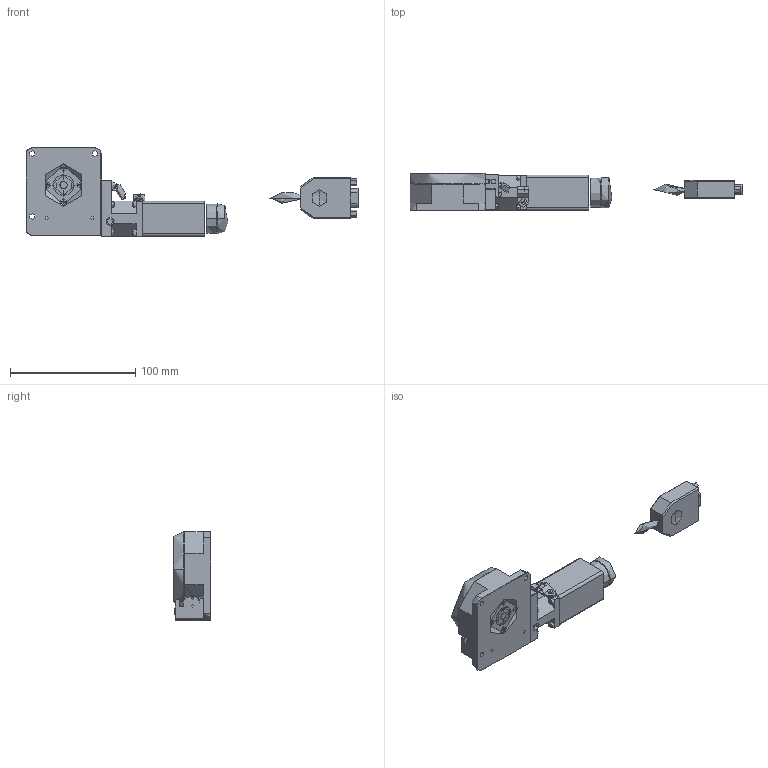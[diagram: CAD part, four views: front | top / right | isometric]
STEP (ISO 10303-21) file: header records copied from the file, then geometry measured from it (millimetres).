
FILE_DESCRIPTION (( 'STEP AP214' ), '1' );
FILE_NAME ('PX-GD60Z.STEP', '2022-10-23T07:54:29', ( '' ), ( '' ), 'SwSTEP 2.0', 'SolidWorks 2017', '' );
FILE_SCHEMA (( 'AUTOMOTIVE_DESIGN' ));
Length unit declared in the file: millimetre
Products named in the file (2): PX-GD60Z
Assembly tree (1 placements, depth 2):
  PX-GD60Z
    PX-GD60Z
Bounding box: 265.4 x 30 x 71.1 mm (x, y, z)
Topology: 0 solids, 98 shells, 783 faces, 2253 edges, 1561 vertices
Faces by surface type: plane 439, cylinder 153, bspline 107, cone 84
Full cylindrical faces by diameter (mm): 6 x2
Entity records: 37545 total; most frequent: CARTESIAN_POINT 18625, ORIENTED_EDGE 3993, DIRECTION 3160, EDGE_CURVE 2219, VERTEX_POINT 1558, LINE 1200, VECTOR 1200, AXIS2_PLACEMENT_3D 980
